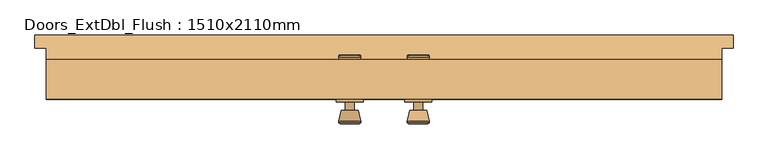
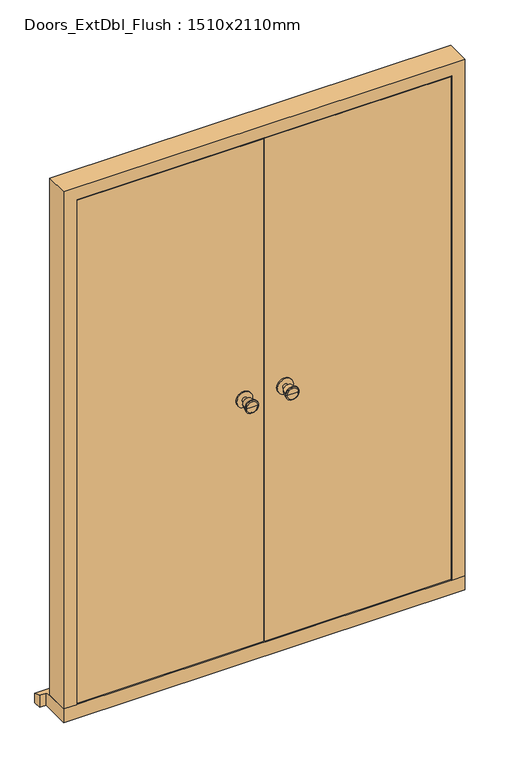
"""IFC4 building model written with IfcOpenShell, lengths in millimetres: door geometry, Doors_ExtDbl_Flush : 1510x2110mm."""

from ifc_helpers import new_model, si_unit, point, frame, frame_2d, origin, place, context, project, spatial, polyline, circle_curve, trimmed, segment, composite_curve, outline, extrude, faceted_brep, source, transform, mapped, element, save
from ifc_brep_helpers import plane_surface, cylinder_surface, revolved_surface, advanced_brep


def doors_extdbl_flush_1510x2110mm_71f47a27(model_context):
    return source(origin(), model_context, "Body", "SolidModel", [
        advanced_brep(
        [(-76.5, 180.0, 1050.0), (-66.5, 180.0, 1050.0), (-86.5, 180.0, 1050.0), (-96.9758676, 131.0, 1050.0), (-56.0241324, 131.0, 1050.0), (-76.5, 131.0, 1050.0), (-101.5, 132.8278681, 1050.0), (-51.5, 132.8278681, 1050.0), (-101.5, 136.2915463, 1050.0), (-51.5, 136.2915463, 1050.0), (-95.136236, 161.0, 1050.0), (-57.863764, 161.0, 1050.0), (-86.5, 161.0, 1050.0), (-66.5, 161.0, 1050.0)],
        [
            (0, 1),
            (1, 2, circle_curve(frame((-76.5, 180.0, 1050.0), z_axis=(0.0, 1.0, 0.0), x_axis=(1.0, 0.0, 0.0)), 10.0)),
            (2, 0),
            (2, 1, circle_curve(frame((-76.5, 180.0, 1050.0), z_axis=(0.0, 1.0, 0.0), x_axis=(1.0, 0.0, 0.0)), 10.0)),
            (3, 4, circle_curve(frame((-76.5, 131.0, 1050.0), z_axis=(0.0, -1.0, 0.0), x_axis=(1.0, 0.0, 0.0)), 20.4758676)),
            (4, 5),
            (5, 3),
            (4, 3, circle_curve(frame((-76.5, 131.0, 1050.0), z_axis=(0.0, -1.0, 0.0), x_axis=(1.0, 0.0, 0.0)), 20.4758676)),
            (6, 7, circle_curve(frame((-76.5, 132.8278681, 1050.0), z_axis=(0.0, -1.0, 0.0), x_axis=(1.0, 0.0, 0.0)), 25.0)),
            (7, 4),
            (3, 6),
            (7, 6, circle_curve(frame((-76.5, 132.8278681, 1050.0), z_axis=(0.0, -1.0, 0.0), x_axis=(1.0, 0.0, 0.0)), 25.0)),
            (8, 9, circle_curve(frame((-76.5, 136.2915463, 1050.0), z_axis=(0.0, -1.0, 0.0), x_axis=(1.0, 0.0, 0.0)), 25.0)),
            (9, 7),
            (6, 8),
            (9, 8, circle_curve(frame((-76.5, 136.2915463, 1050.0), z_axis=(0.0, -1.0, 0.0), x_axis=(1.0, 0.0, 0.0)), 25.0)),
            (10, 11, circle_curve(frame((-76.5, 161.0, 1050.0), z_axis=(0.0, -1.0, 0.0), x_axis=(1.0, 0.0, 0.0)), 18.636236)),
            (11, 9),
            (8, 10),
            (11, 10, circle_curve(frame((-76.5, 161.0, 1050.0), z_axis=(0.0, -1.0, 0.0), x_axis=(1.0, 0.0, 0.0)), 18.636236)),
            (12, 13, circle_curve(frame((-76.5, 161.0, 1050.0), z_axis=(0.0, -1.0, 0.0), x_axis=(1.0, 0.0, 0.0)), 10.0)),
            (13, 11),
            (10, 12),
            (13, 12, circle_curve(frame((-76.5, 161.0, 1050.0), z_axis=(0.0, -1.0, 0.0), x_axis=(1.0, 0.0, 0.0)), 10.0)),
            (1, 13),
            (12, 2),
        ],
        [
            plane_surface(frame((-76.5, 180.0, 1050.0), z_axis=(0.0, 1.0, 0.0), x_axis=(1.0, 0.0, 0.0))),
            plane_surface(frame((-76.5, 131.0, 1050.0), z_axis=(0.0, -1.0, 0.0), x_axis=(1.0, 0.0, 0.0))),
            revolved_surface(polyline([(-56.0241324, 131.0, 1050.0), (-51.5, 132.8278681, 1050.0)]), (-76.5, 180.0, 1050.0), (0.0, 1.0, 0.0)),
            cylinder_surface(frame((-76.5, 180.0, 1050.0), z_axis=(0.0, 1.0, 0.0), x_axis=(1.0, 0.0, 0.0)), 25.0),
            revolved_surface(polyline([(-51.5, 136.2915463, 1050.0), (-57.863764, 161.0, 1050.0)]), (-76.5, 180.0, 1050.0), (0.0, 1.0, 0.0)),
            plane_surface(frame((-76.5, 161.0, 1050.0), z_axis=(0.0, 1.0, 0.0), x_axis=(1.0, 0.0, 0.0))),
            cylinder_surface(frame((-76.5, 180.0, 1050.0), z_axis=(0.0, 1.0, 0.0), x_axis=(1.0, 0.0, 0.0)), 10.0),
        ],
        [
            (0, [[1, 2, 3]]),
            (0, [[-3, 4, -1]]),
            (1, [[5, 6, 7]]),
            (1, [[8, -7, -6]]),
            (2, [[9, 10, -5, 11]]),
            (2, [[12, -11, -8, -10]]),
            (3, [[13, 14, -9, 15]]),
            (3, [[16, -15, -12, -14]]),
            (4, [[17, 18, -13, 19]]),
            (4, [[20, -19, -16, -18]]),
            (5, [[21, 22, -17, 23]]),
            (5, [[24, -23, -20, -22]]),
            (6, [[-2, 25, -21, 26]]),
            (6, [[-4, -26, -24, -25]]),
        ],
    ),
        extrude(outline(composite_curve([segment(trimmed(circle_curve(frame_2d((1050.0, -76.5)), 30.0), [point((1050.0, -46.5))], [point((1050.0, -106.5))], False, "CARTESIAN"), True, "CONTINUOUS"), segment(trimmed(circle_curve(frame_2d((1050.0, -76.5)), 30.0), [point((1050.0, -106.5))], [point((1050.0, -46.5))], False, "CARTESIAN"), True, "CONTINUOUS")], self_intersect=False)), frame((0.0, 180.0, 0.0), z_axis=(0.0, 1.0, 0.0), x_axis=(0.0, 0.0, 1.0)), (0.0, 0.0, 1.0), 6.0),
        advanced_brep(
        [(-76.5, 236.0, 1050.0), (-86.5, 236.0, 1050.0), (-66.5, 236.0, 1050.0), (-96.9758676, 285.0, 1050.0), (-76.5, 285.0, 1050.0), (-56.0241324, 285.0, 1050.0), (-101.5, 283.1721319, 1050.0), (-51.5, 283.1721319, 1050.0), (-101.5, 279.7084537, 1050.0), (-51.5, 279.7084537, 1050.0), (-95.136236, 255.0, 1050.0), (-57.863764, 255.0, 1050.0), (-86.5, 255.0, 1050.0), (-66.5, 255.0, 1050.0)],
        [
            (0, 1),
            (1, 2, circle_curve(frame((-76.5, 236.0, 1050.0), z_axis=(0.0, -1.0, 0.0), x_axis=(1.0, 0.0, 0.0)), 10.0)),
            (2, 0),
            (2, 1, circle_curve(frame((-76.5, 236.0, 1050.0), z_axis=(0.0, -1.0, 0.0), x_axis=(1.0, 0.0, 0.0)), 10.0)),
            (3, 4),
            (4, 5),
            (5, 3, circle_curve(frame((-76.5, 285.0, 1050.0), z_axis=(0.0, 1.0, 0.0), x_axis=(1.0, 0.0, 0.0)), 20.4758676)),
            (3, 5, circle_curve(frame((-76.5, 285.0, 1050.0), z_axis=(0.0, 1.0, 0.0), x_axis=(1.0, 0.0, 0.0)), 20.4758676)),
            (6, 3),
            (5, 7),
            (7, 6, circle_curve(frame((-76.5, 283.1721319, 1050.0), z_axis=(0.0, 1.0, 0.0), x_axis=(1.0, 0.0, 0.0)), 25.0)),
            (6, 7, circle_curve(frame((-76.5, 283.1721319, 1050.0), z_axis=(0.0, 1.0, 0.0), x_axis=(1.0, 0.0, 0.0)), 25.0)),
            (8, 6),
            (7, 9),
            (9, 8, circle_curve(frame((-76.5, 279.7084537, 1050.0), z_axis=(0.0, 1.0, 0.0), x_axis=(1.0, 0.0, 0.0)), 25.0)),
            (8, 9, circle_curve(frame((-76.5, 279.7084537, 1050.0), z_axis=(0.0, 1.0, 0.0), x_axis=(1.0, 0.0, 0.0)), 25.0)),
            (10, 8),
            (9, 11),
            (11, 10, circle_curve(frame((-76.5, 255.0, 1050.0), z_axis=(0.0, 1.0, 0.0), x_axis=(1.0, 0.0, 0.0)), 18.636236)),
            (10, 11, circle_curve(frame((-76.5, 255.0, 1050.0), z_axis=(0.0, 1.0, 0.0), x_axis=(1.0, 0.0, 0.0)), 18.636236)),
            (12, 10),
            (11, 13),
            (13, 12, circle_curve(frame((-76.5, 255.0, 1050.0), z_axis=(0.0, 1.0, 0.0), x_axis=(1.0, 0.0, 0.0)), 10.0)),
            (12, 13, circle_curve(frame((-76.5, 255.0, 1050.0), z_axis=(0.0, 1.0, 0.0), x_axis=(1.0, 0.0, 0.0)), 10.0)),
            (1, 12),
            (13, 2),
        ],
        [
            plane_surface(frame((-76.5, 236.0, 1050.0), z_axis=(0.0, -1.0, 0.0), x_axis=(1.0, 0.0, 0.0))),
            plane_surface(frame((-76.5, 285.0, 1050.0), z_axis=(0.0, 1.0, 0.0), x_axis=(1.0, 0.0, 0.0))),
            revolved_surface(polyline([(-56.0241324, 285.0, 1050.0), (-51.5, 283.1721319, 1050.0)]), (-76.5, 236.0, 1050.0), (0.0, -1.0, 0.0)),
            cylinder_surface(frame((-76.5, 236.0, 1050.0), z_axis=(0.0, -1.0, 0.0), x_axis=(1.0, 0.0, 0.0)), 25.0),
            revolved_surface(polyline([(-51.5, 279.7084537, 1050.0), (-57.863764, 255.0, 1050.0)]), (-76.5, 236.0, 1050.0), (0.0, -1.0, 0.0)),
            plane_surface(frame((-76.5, 255.0, 1050.0), z_axis=(0.0, -1.0, 0.0), x_axis=(1.0, 0.0, 0.0))),
            cylinder_surface(frame((-76.5, 236.0, 1050.0), z_axis=(0.0, -1.0, 0.0), x_axis=(1.0, 0.0, 0.0)), 10.0),
        ],
        [
            (0, [[1, 2, 3]]),
            (0, [[-3, 4, -1]]),
            (1, [[5, 6, 7]]),
            (1, [[-6, -5, 8]]),
            (2, [[9, -7, 10, 11]]),
            (2, [[-10, -8, -9, 12]]),
            (3, [[13, -11, 14, 15]]),
            (3, [[-14, -12, -13, 16]]),
            (4, [[17, -15, 18, 19]]),
            (4, [[-18, -16, -17, 20]]),
            (5, [[21, -19, 22, 23]]),
            (5, [[-22, -20, -21, 24]]),
            (6, [[25, -23, 26, -2]]),
            (6, [[-26, -24, -25, -4]]),
        ],
    ),
        extrude(outline(composite_curve([segment(trimmed(circle_curve(frame_2d((1050.0, -76.5)), 30.0), [point((1050.0, -46.5))], [point((1050.0, -106.5))], False, "CARTESIAN"), True, "CONTINUOUS"), segment(trimmed(circle_curve(frame_2d((1050.0, -76.5)), 30.0), [point((1050.0, -106.5))], [point((1050.0, -46.5))], False, "CARTESIAN"), True, "CONTINUOUS")], self_intersect=False)), frame((0.0, 230.0, 0.0), z_axis=(0.0, 1.0, 0.0), x_axis=(0.0, 0.0, 1.0)), (0.0, 0.0, 1.0), 6.0),
        advanced_brep(
        [(76.5, 180.0, 1050.0), (86.5, 180.0, 1050.0), (66.5, 180.0, 1050.0), (96.9758676, 131.0, 1050.0), (76.5, 131.0, 1050.0), (56.0241324, 131.0, 1050.0), (101.5, 132.8278681, 1050.0), (51.5, 132.8278681, 1050.0), (101.5, 136.2915463, 1050.0), (51.5, 136.2915463, 1050.0), (95.136236, 161.0, 1050.0), (57.863764, 161.0, 1050.0), (86.5, 161.0, 1050.0), (66.5, 161.0, 1050.0)],
        [
            (0, 1),
            (1, 2, circle_curve(frame((76.5, 180.0, 1050.0), z_axis=(0.0, 1.0, 0.0), x_axis=(-1.0, 0.0, 0.0)), 10.0)),
            (2, 0),
            (2, 1, circle_curve(frame((76.5, 180.0, 1050.0), z_axis=(0.0, 1.0, 0.0), x_axis=(-1.0, 0.0, 0.0)), 10.0)),
            (3, 4),
            (4, 5),
            (5, 3, circle_curve(frame((76.5, 131.0, 1050.0), z_axis=(0.0, -1.0, 0.0), x_axis=(-1.0, 0.0, 0.0)), 20.4758676)),
            (3, 5, circle_curve(frame((76.5, 131.0, 1050.0), z_axis=(0.0, -1.0, 0.0), x_axis=(-1.0, 0.0, 0.0)), 20.4758676)),
            (6, 3),
            (5, 7),
            (7, 6, circle_curve(frame((76.5, 132.8278681, 1050.0), z_axis=(0.0, -1.0, 0.0), x_axis=(-1.0, 0.0, 0.0)), 25.0)),
            (6, 7, circle_curve(frame((76.5, 132.8278681, 1050.0), z_axis=(0.0, -1.0, 0.0), x_axis=(-1.0, 0.0, 0.0)), 25.0)),
            (8, 6),
            (7, 9),
            (9, 8, circle_curve(frame((76.5, 136.2915463, 1050.0), z_axis=(0.0, -1.0, 0.0), x_axis=(-1.0, 0.0, 0.0)), 25.0)),
            (8, 9, circle_curve(frame((76.5, 136.2915463, 1050.0), z_axis=(0.0, -1.0, 0.0), x_axis=(-1.0, 0.0, 0.0)), 25.0)),
            (10, 8),
            (9, 11),
            (11, 10, circle_curve(frame((76.5, 161.0, 1050.0), z_axis=(0.0, -1.0, 0.0), x_axis=(-1.0, 0.0, 0.0)), 18.636236)),
            (10, 11, circle_curve(frame((76.5, 161.0, 1050.0), z_axis=(0.0, -1.0, 0.0), x_axis=(-1.0, 0.0, 0.0)), 18.636236)),
            (12, 10),
            (11, 13),
            (13, 12, circle_curve(frame((76.5, 161.0, 1050.0), z_axis=(0.0, -1.0, 0.0), x_axis=(-1.0, 0.0, 0.0)), 10.0)),
            (12, 13, circle_curve(frame((76.5, 161.0, 1050.0), z_axis=(0.0, -1.0, 0.0), x_axis=(-1.0, 0.0, 0.0)), 10.0)),
            (1, 12),
            (13, 2),
        ],
        [
            plane_surface(frame((76.5, 180.0, 1050.0), z_axis=(0.0, 1.0, 0.0), x_axis=(-1.0, 0.0, 0.0))),
            plane_surface(frame((76.5, 131.0, 1050.0), z_axis=(0.0, -1.0, 0.0), x_axis=(-1.0, 0.0, 0.0))),
            revolved_surface(polyline([(56.0241324, 131.0, 1050.0), (51.5, 132.8278681, 1050.0)]), (76.5, 180.0, 1050.0), (0.0, 1.0, 0.0)),
            cylinder_surface(frame((76.5, 180.0, 1050.0), z_axis=(0.0, 1.0, 0.0), x_axis=(-1.0, 0.0, 0.0)), 25.0),
            revolved_surface(polyline([(51.5, 136.2915463, 1050.0), (57.863764, 161.0, 1050.0)]), (76.5, 180.0, 1050.0), (0.0, 1.0, 0.0)),
            plane_surface(frame((76.5, 161.0, 1050.0), z_axis=(0.0, 1.0, 0.0), x_axis=(-1.0, 0.0, 0.0))),
            cylinder_surface(frame((76.5, 180.0, 1050.0), z_axis=(0.0, 1.0, 0.0), x_axis=(-1.0, 0.0, 0.0)), 10.0),
        ],
        [
            (0, [[1, 2, 3]]),
            (0, [[-3, 4, -1]]),
            (1, [[5, 6, 7]]),
            (1, [[-6, -5, 8]]),
            (2, [[9, -7, 10, 11]]),
            (2, [[-10, -8, -9, 12]]),
            (3, [[13, -11, 14, 15]]),
            (3, [[-14, -12, -13, 16]]),
            (4, [[17, -15, 18, 19]]),
            (4, [[-18, -16, -17, 20]]),
            (5, [[21, -19, 22, 23]]),
            (5, [[-22, -20, -21, 24]]),
            (6, [[25, -23, 26, -2]]),
            (6, [[-26, -24, -25, -4]]),
        ],
    ),
        extrude(outline(composite_curve([segment(trimmed(circle_curve(frame_2d((1050.0, 76.5)), 30.0), [point((1050.0, 46.5))], [point((1050.0, 106.5))], False, "CARTESIAN"), True, "CONTINUOUS"), segment(trimmed(circle_curve(frame_2d((1050.0, 76.5)), 30.0), [point((1050.0, 106.5))], [point((1050.0, 46.5))], False, "CARTESIAN"), True, "CONTINUOUS")], self_intersect=False)), frame((0.0, 180.0, 0.0), z_axis=(0.0, 1.0, 0.0), x_axis=(0.0, 0.0, 1.0)), (0.0, 0.0, 1.0), 6.0),
        advanced_brep(
        [(76.5, 236.0, 1050.0), (66.5, 236.0, 1050.0), (86.5, 236.0, 1050.0), (96.9758676, 285.0, 1050.0), (56.0241324, 285.0, 1050.0), (76.5, 285.0, 1050.0), (101.5, 283.1721319, 1050.0), (51.5, 283.1721319, 1050.0), (101.5, 279.7084537, 1050.0), (51.5, 279.7084537, 1050.0), (95.136236, 255.0, 1050.0), (57.863764, 255.0, 1050.0), (86.5, 255.0, 1050.0), (66.5, 255.0, 1050.0)],
        [
            (0, 1),
            (1, 2, circle_curve(frame((76.5, 236.0, 1050.0), z_axis=(0.0, -1.0, 0.0), x_axis=(-1.0, 0.0, 0.0)), 10.0)),
            (2, 0),
            (2, 1, circle_curve(frame((76.5, 236.0, 1050.0), z_axis=(0.0, -1.0, 0.0), x_axis=(-1.0, 0.0, 0.0)), 10.0)),
            (3, 4, circle_curve(frame((76.5, 285.0, 1050.0), z_axis=(0.0, 1.0, 0.0), x_axis=(-1.0, 0.0, 0.0)), 20.4758676)),
            (4, 5),
            (5, 3),
            (4, 3, circle_curve(frame((76.5, 285.0, 1050.0), z_axis=(0.0, 1.0, 0.0), x_axis=(-1.0, 0.0, 0.0)), 20.4758676)),
            (6, 7, circle_curve(frame((76.5, 283.1721319, 1050.0), z_axis=(0.0, 1.0, 0.0), x_axis=(-1.0, 0.0, 0.0)), 25.0)),
            (7, 4),
            (3, 6),
            (7, 6, circle_curve(frame((76.5, 283.1721319, 1050.0), z_axis=(0.0, 1.0, 0.0), x_axis=(-1.0, 0.0, 0.0)), 25.0)),
            (8, 9, circle_curve(frame((76.5, 279.7084537, 1050.0), z_axis=(0.0, 1.0, 0.0), x_axis=(-1.0, 0.0, 0.0)), 25.0)),
            (9, 7),
            (6, 8),
            (9, 8, circle_curve(frame((76.5, 279.7084537, 1050.0), z_axis=(0.0, 1.0, 0.0), x_axis=(-1.0, 0.0, 0.0)), 25.0)),
            (10, 11, circle_curve(frame((76.5, 255.0, 1050.0), z_axis=(0.0, 1.0, 0.0), x_axis=(-1.0, 0.0, 0.0)), 18.636236)),
            (11, 9),
            (8, 10),
            (11, 10, circle_curve(frame((76.5, 255.0, 1050.0), z_axis=(0.0, 1.0, 0.0), x_axis=(-1.0, 0.0, 0.0)), 18.636236)),
            (12, 13, circle_curve(frame((76.5, 255.0, 1050.0), z_axis=(0.0, 1.0, 0.0), x_axis=(-1.0, 0.0, 0.0)), 10.0)),
            (13, 11),
            (10, 12),
            (13, 12, circle_curve(frame((76.5, 255.0, 1050.0), z_axis=(0.0, 1.0, 0.0), x_axis=(-1.0, 0.0, 0.0)), 10.0)),
            (1, 13),
            (12, 2),
        ],
        [
            plane_surface(frame((76.5, 236.0, 1050.0), z_axis=(0.0, -1.0, 0.0), x_axis=(-1.0, 0.0, 0.0))),
            plane_surface(frame((76.5, 285.0, 1050.0), z_axis=(0.0, 1.0, 0.0), x_axis=(-1.0, 0.0, 0.0))),
            revolved_surface(polyline([(56.0241324, 285.0, 1050.0), (51.5, 283.1721319, 1050.0)]), (76.5, 236.0, 1050.0), (0.0, -1.0, 0.0)),
            cylinder_surface(frame((76.5, 236.0, 1050.0), z_axis=(0.0, -1.0, 0.0), x_axis=(-1.0, 0.0, 0.0)), 25.0),
            revolved_surface(polyline([(51.5, 279.7084537, 1050.0), (57.863764, 255.0, 1050.0)]), (76.5, 236.0, 1050.0), (0.0, -1.0, 0.0)),
            plane_surface(frame((76.5, 255.0, 1050.0), z_axis=(0.0, -1.0, 0.0), x_axis=(-1.0, 0.0, 0.0))),
            cylinder_surface(frame((76.5, 236.0, 1050.0), z_axis=(0.0, -1.0, 0.0), x_axis=(-1.0, 0.0, 0.0)), 10.0),
        ],
        [
            (0, [[1, 2, 3]]),
            (0, [[-3, 4, -1]]),
            (1, [[5, 6, 7]]),
            (1, [[8, -7, -6]]),
            (2, [[9, 10, -5, 11]]),
            (2, [[12, -11, -8, -10]]),
            (3, [[13, 14, -9, 15]]),
            (3, [[16, -15, -12, -14]]),
            (4, [[17, 18, -13, 19]]),
            (4, [[20, -19, -16, -18]]),
            (5, [[21, 22, -17, 23]]),
            (5, [[24, -23, -20, -22]]),
            (6, [[-2, 25, -21, 26]]),
            (6, [[-4, -26, -24, -25]]),
        ],
    ),
        extrude(outline(composite_curve([segment(trimmed(circle_curve(frame_2d((1050.0, 76.5)), 30.0), [point((1050.0, 46.5))], [point((1050.0, 106.5))], False, "CARTESIAN"), True, "CONTINUOUS"), segment(trimmed(circle_curve(frame_2d((1050.0, 76.5)), 30.0), [point((1050.0, 106.5))], [point((1050.0, 46.5))], False, "CARTESIAN"), True, "CONTINUOUS")], self_intersect=False)), frame((0.0, 230.0, 0.0), z_axis=(0.0, 1.0, 0.0), x_axis=(0.0, 0.0, 1.0)), (0.0, 0.0, 1.0), 6.0),
        faceted_brep([(684.5, 275.0, 54.5), (755.0, 275.0, 54.5), (755.0, 186.0, 54.5), (706.5, 186.0, 54.5), (706.5, 233.0, 54.5), (684.5, 233.0, 54.5), (684.5, 275.0, 2039.5), (-684.5, 275.0, 2039.5), (-684.5, 275.0, 54.5), (-755.0, 275.0, 54.5), (-755.0, 275.0, 2110.0), (755.0, 275.0, 2110.0), (755.0, 186.0, 2110.0), (-755.0, 186.0, 2110.0), (-755.0, 186.0, 54.5), (-706.5, 186.0, 54.5), (-706.5, 186.0, 2061.5), (706.5, 186.0, 2061.5), (706.5, 233.0, 2061.5), (-706.5, 233.0, 2061.5), (-706.5, 233.0, 54.5), (-684.5, 233.0, 54.5), (-684.5, 233.0, 2039.5), (684.5, 233.0, 2039.5)], [[[0, 1, 2, 3, 4, 5]], [[1, 0, 6, 7, 8, 9, 10, 11]], [[2, 1, 11, 12]], [[3, 2, 12, 13, 14, 15, 16, 17]], [[4, 3, 17, 18]], [[5, 4, 18, 19, 20, 21, 22, 23]], [[0, 5, 23, 6]], [[12, 11, 10, 13]], [[18, 17, 16, 19]], [[6, 23, 22, 7]], [[8, 21, 20, 15, 14, 9]], [[13, 10, 9, 14]], [[19, 16, 15, 20]], [[7, 22, 21, 8]]]),
        faceted_brep([(780.0, 330.0, 0.0), (780.0, 330.0, 38.5947221), (780.0, 300.0, 47.2703282), (780.0, 300.0, 0.0), (-780.0, 330.0, 38.5947221), (-780.0, 330.0, 0.0), (-780.0, 300.0, 0.0), (-780.0, 300.0, 47.2703282), (755.0, 300.0, 0.0), (755.0, 186.0, 0.0), (-755.0, 186.0, 0.0), (-755.0, 300.0, 0.0), (-755.0, 300.0, 47.2703282), (-755.0, 275.0, 54.5), (755.0, 275.0, 54.5), (755.0, 300.0, 47.2703282), (-755.0, 186.0, 54.5), (755.0, 186.0, 54.5)], [[[0, 1, 2, 3]], [[4, 5, 6, 7]], [[5, 0, 3, 8, 9, 10, 11, 6]], [[1, 0, 5, 4]], [[1, 4, 7, 12, 13, 14, 15, 2]], [[13, 16, 17, 14]], [[16, 10, 9, 17]], [[12, 11, 10, 16, 13]], [[11, 12, 7, 6]], [[8, 15, 14, 17, 9]], [[15, 8, 3, 2]]]),
        extrude(outline(polyline([(703.5, 186.0), (1.5, 186.0), (1.5, 230.0), (703.5, 230.0), (703.5, 186.0)])), frame((0.0, 0.0, 58.5), z_axis=(0.0, 0.0, 1.0), x_axis=(1.0, 0.0, 0.0)), (0.0, 0.0, 1.0), 2000.0),
        extrude(outline(polyline([(-1.5, 186.0), (-703.5, 186.0), (-703.5, 230.0), (-1.5, 230.0), (-1.5, 186.0)])), frame((0.0, 0.0, 58.5), z_axis=(0.0, 0.0, 1.0), x_axis=(1.0, 0.0, 0.0)), (0.0, 0.0, 1.0), 2000.0),
    ])


if __name__ == "__main__":
    model = new_model("IFC4")
    model_context = context("Model", 3, world=origin())
    ifc_project = project(units=[si_unit("LENGTHUNIT", "METRE", prefix="MILLI")], contexts=[model_context])
    site = spatial("IfcSite", under=ifc_project)
    building = spatial("IfcBuilding", under=site)
    placement = place(None, origin())
    doors_extdbl_flush_1510x2110mm_shape = doors_extdbl_flush_1510x2110mm_71f47a27(model_context)
    element("IfcDoor", 1, ObjectType="Doors_ExtDbl_Flush : 1510x2110mm", at=placement, inside=building, context=model_context, shape_type="MappedRepresentation", body=[
        mapped(doors_extdbl_flush_1510x2110mm_shape, transform((0.0, 0.0, 0.0), x_axis=(1.0, 0.0, 0.0), y_axis=(0.0, 1.0, 0.0), z_axis=(0.0, 0.0, 1.0))),
    ])
    save(model, "model.ifc")
